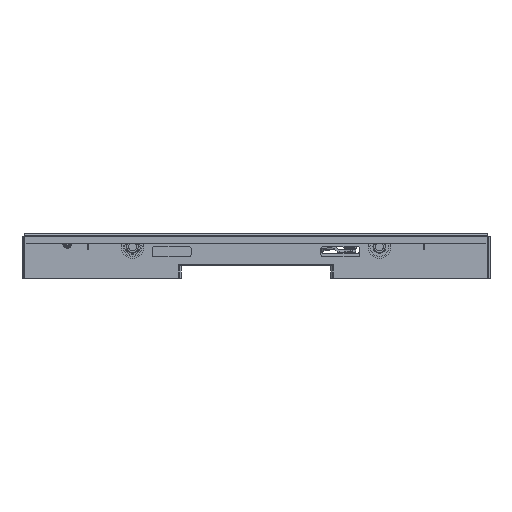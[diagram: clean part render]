
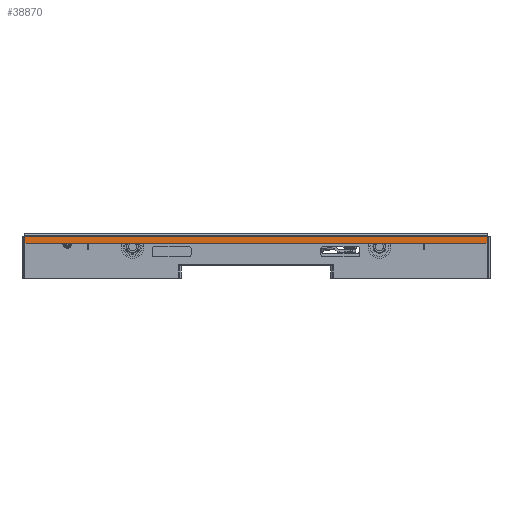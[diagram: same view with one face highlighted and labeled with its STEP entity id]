
A CAD part, front view. The second image highlights one B-rep face of the part: STEP entity #38870.
In plain terms, the highlighted planar face has unit normal (0, -1, 0).
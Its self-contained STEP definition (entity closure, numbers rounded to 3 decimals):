
#8895 = LINE ( 'NONE', #8896, #9458 ) ;
#8896 = CARTESIAN_POINT ( 'NONE',  ( 356.75, -969.5, -34.251 ) ) ;
#8897 = DIRECTION ( 'NONE',  ( 0., 0., 1. ) ) ;
#8925 = LINE ( 'NONE', #8926, #9470 ) ;
#8926 = CARTESIAN_POINT ( 'NONE',  ( -356.75, -969.5, -34.251 ) ) ;
#8927 = DIRECTION ( 'NONE',  ( 0., 0., 1. ) ) ;
#8964 = LINE ( 'NONE', #8965, #9482 ) ;
#8965 = CARTESIAN_POINT ( 'NONE',  ( -360.25, -969.5, 19.25 ) ) ;
#8966 = DIRECTION ( 'NONE',  ( 1., 0., 0. ) ) ;
#8970 = LINE ( 'NONE', #8971, #9484 ) ;
#8971 = CARTESIAN_POINT ( 'NONE',  ( -353.75, -969.5, 19.25 ) ) ;
#8972 = DIRECTION ( 'NONE',  ( 0.707, 0., -0.707 ) ) ;
#8973 = LINE ( 'NONE', #8974, #9485 ) ;
#8974 = CARTESIAN_POINT ( 'NONE',  ( 353.75, -969.5, 19.25 ) ) ;
#8975 = DIRECTION ( 'NONE',  ( 0.707, 0., 0.707 ) ) ;
#8976 = LINE ( 'NONE', #8977, #9486 ) ;
#8977 = CARTESIAN_POINT ( 'NONE',  ( -360.25, -969.5, 30.75 ) ) ;
#8978 = DIRECTION ( 'NONE',  ( 1., 0., 0. ) ) ;
#9458 = VECTOR ( 'NONE', #8897, 1000. ) ;
#9470 = VECTOR ( 'NONE', #8927, 1000. ) ;
#9482 = VECTOR ( 'NONE', #8966, 1000. ) ;
#9484 = VECTOR ( 'NONE', #8972, 1000. ) ;
#9485 = VECTOR ( 'NONE', #8975, 1000. ) ;
#9486 = VECTOR ( 'NONE', #8978, 1000. ) ;
#30754 = VERTEX_POINT ( 'NONE', #110292 ) ;
#30767 = VERTEX_POINT ( 'NONE', #110305 ) ;
#30849 = VERTEX_POINT ( 'NONE', #110387 ) ;
#30855 = VERTEX_POINT ( 'NONE', #110393 ) ;
#30857 = VERTEX_POINT ( 'NONE', #110395 ) ;
#38870 = ADVANCED_FACE ( 'NONE', ( #125880 ), #126412, .F. ) ;
#46942 = CARTESIAN_POINT ( 'NONE',  ( -356.75, -969.5, 22.25 ) ) ;
#59973 = EDGE_CURVE ( 'NONE', #30754, #30767, #8895, .T. ) ;
#59983 = EDGE_CURVE ( 'NONE', #78523, #30849, #8925, .T. ) ;
#59996 = EDGE_CURVE ( 'NONE', #30855, #30857, #8964, .T. ) ;
#59998 = EDGE_CURVE ( 'NONE', #78523, #30855, #8970, .T. ) ;
#59999 = EDGE_CURVE ( 'NONE', #30857, #30754, #8973, .T. ) ;
#60000 = EDGE_CURVE ( 'NONE', #30849, #30767, #8976, .T. ) ;
#60819 = EDGE_LOOP ( 'NONE', ( #66325, #66326, #66324, #66327, #66328, #66329 ) ) ;
#66324 = ORIENTED_EDGE ( 'NONE', *, *, #59996, .T. ) ;
#66325 = ORIENTED_EDGE ( 'NONE', *, *, #59983, .F. ) ;
#66326 = ORIENTED_EDGE ( 'NONE', *, *, #59998, .T. ) ;
#66327 = ORIENTED_EDGE ( 'NONE', *, *, #59999, .T. ) ;
#66328 = ORIENTED_EDGE ( 'NONE', *, *, #59973, .T. ) ;
#66329 = ORIENTED_EDGE ( 'NONE', *, *, #60000, .F. ) ;
#78523 = VERTEX_POINT ( 'NONE', #46942 ) ;
#110292 = CARTESIAN_POINT ( 'NONE',  ( 356.75, -969.5, 22.25 ) ) ;
#110305 = CARTESIAN_POINT ( 'NONE',  ( 356.75, -969.5, 30.75 ) ) ;
#110387 = CARTESIAN_POINT ( 'NONE',  ( -356.75, -969.5, 30.75 ) ) ;
#110393 = CARTESIAN_POINT ( 'NONE',  ( -353.75, -969.5, 19.25 ) ) ;
#110395 = CARTESIAN_POINT ( 'NONE',  ( 353.75, -969.5, 19.25 ) ) ;
#125880 = FACE_OUTER_BOUND ( 'NONE', #60819, .T. ) ;
#125884 = AXIS2_PLACEMENT_3D ( 'NONE', #126413, #126414, #126415 ) ;
#126412 = PLANE ( 'NONE',  #125884 ) ;
#126413 = CARTESIAN_POINT ( 'NONE',  ( -360.25, -969.5, 34.25 ) ) ;
#126414 = DIRECTION ( 'NONE',  ( 0., 1., 0. ) ) ;
#126415 = DIRECTION ( 'NONE',  ( 0., 0., -1. ) ) ;
